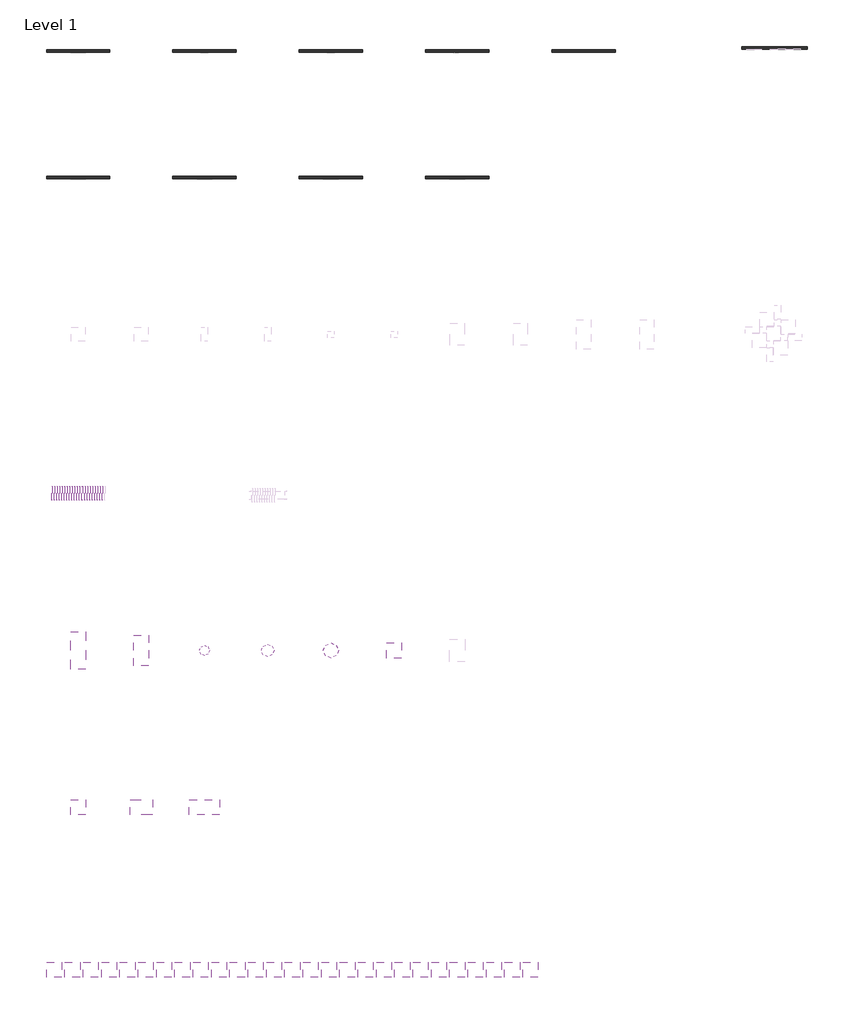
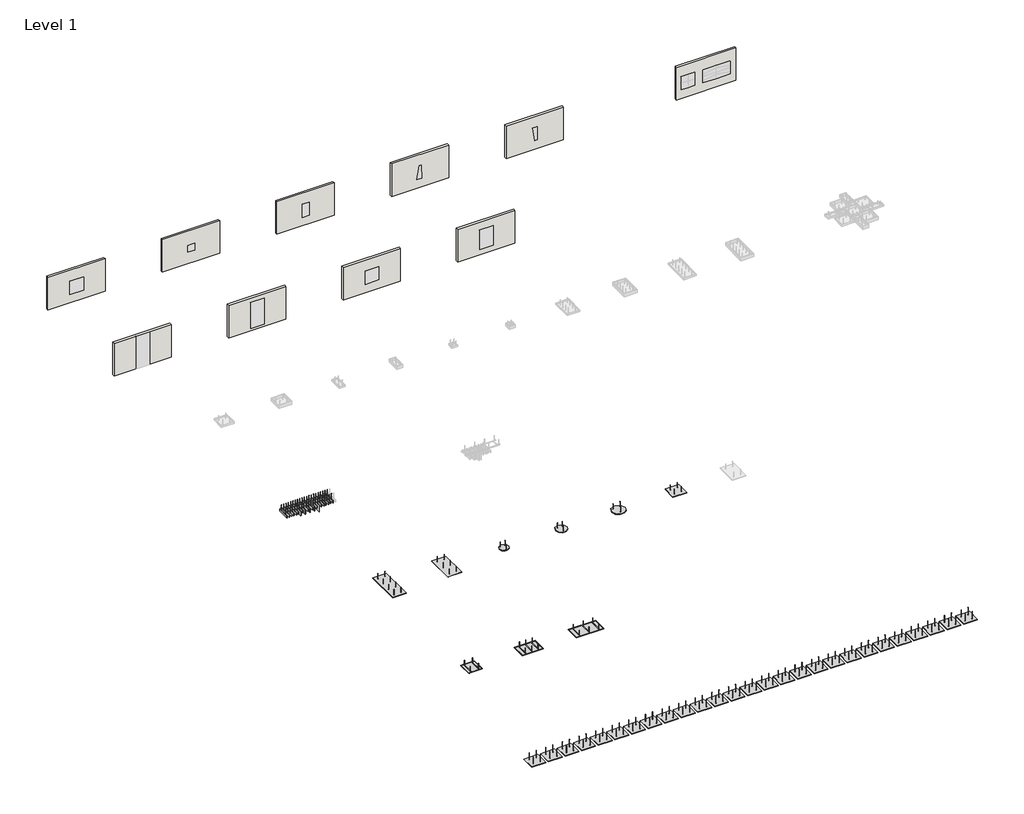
# One storey, part 1 of 2: 57 proxies, 10 walls.
"""IFC4 building model written with IfcOpenShell, lengths in millimetres."""

from ifc_helpers import new_model, si_unit, origin, origin_with_axes, place, context, project, spatial, polyline, outline, extrude, transform, mapped, element, save
from components import specialty_equipment_9a51aed6, specialty_equipment_522a419b, specialty_equipment_8dedf9e6, specialty_equipment_8f9aa0d5, specialty_equipment_cb26eacc, specialty_equipment_895da12a, specialty_equipment_03e5362a, specialty_equipment_ed930d67, specialty_equipment_7388ff7b, specialty_equipment_a36aa70e, specialty_equipment_c3a507bd, specialty_equipment_e558b074, owa_freestyle_baffle_freestyle_l_403e4e2e, owa_freestyle_baffle_freestyle_m_6130938e, owa_freestyle_baffle_freestyle_s_ccccea6c

model = new_model("IFC4")

# Units and contexts
model_context = context("Model", 3, world=origin())
ifc_project = project(units=[si_unit("LENGTHUNIT", "METRE", prefix="MILLI")], contexts=[model_context])

# Site, building, storey
site = spatial("IfcSite", under=ifc_project)
building = spatial("IfcBuilding", under=site)
storey = spatial("IfcBuildingStorey", under=building, Name="Level 1", Elevation=0.0)

# Proxies
placement = place(None, origin())
specialty_equipment_shape = specialty_equipment_9a51aed6(model_context)
element("IfcBuildingElementProxy", 1, Name="OWA Selecta : Selecta one", ObjectType="OWA Selecta : Selecta one", at=placement, inside=storey, context=model_context, shape_type="MappedRepresentation", body=[
    mapped(specialty_equipment_shape, transform((27612.2416021, -19326.8850129, 2850.0), x_axis=(0.0, -1.0, 0.0), y_axis=(-1.0, 0.0, 0.0), z_axis=(0.0, 0.0, -1.0))),
])
specialty_equipment_2_shape = specialty_equipment_522a419b(model_context)
element("IfcBuildingElementProxy", 2, Name="OWA Selecta : Selecta grande", ObjectType="OWA Selecta : Selecta grande", at=placement, inside=storey, context=model_context, shape_type="MappedRepresentation", body=[
    mapped(specialty_equipment_2_shape, transform((7612.2416021, -19326.8850129, 2850.0), x_axis=(0.0, -1.0, 0.0), y_axis=(-1.0, 0.0, 0.0), z_axis=(0.0, 0.0, -1.0))),
])
specialty_equipment_3_shape = specialty_equipment_8dedf9e6(model_context)
element("IfcBuildingElementProxy", 3, Name="OWA Selecta : Selecta loop 1000", ObjectType="OWA Selecta : Selecta loop 1000", at=placement, inside=storey, context=model_context, shape_type="MappedRepresentation", body=[
    mapped(specialty_equipment_3_shape, transform((17178.7416021, -18893.3850129, 2850.0), x_axis=(-1.0, 0.0, 0.0), y_axis=(0.0, 1.0, 0.0), z_axis=(0.0, 0.0, -1.0))),
])
specialty_equipment_4_shape = specialty_equipment_8f9aa0d5(model_context)
element("IfcBuildingElementProxy", 4, Name="OWA Selecta : Selecta loop 1200", ObjectType="OWA Selecta : Selecta loop 1200", at=placement, inside=storey, context=model_context, shape_type="MappedRepresentation", body=[
    mapped(specialty_equipment_4_shape, transform((22178.7416021, -18893.3850129, 2850.0), x_axis=(-1.0, 0.0, 0.0), y_axis=(0.0, 1.0, 0.0), z_axis=(0.0, 0.0, -1.0))),
])
specialty_equipment_5_shape = specialty_equipment_cb26eacc(model_context)
element("IfcBuildingElementProxy", 5, Name="OWA Selecta : Selecta loop 800", ObjectType="OWA Selecta : Selecta loop 800", at=placement, inside=storey, context=model_context, shape_type="MappedRepresentation", body=[
    mapped(specialty_equipment_5_shape, transform((12178.7416021, -18893.3850129, 2850.0), x_axis=(-1.0, 0.0, 0.0), y_axis=(0.0, 1.0, 0.0), z_axis=(0.0, 0.0, -1.0))),
])
specialty_equipment_6_shape = specialty_equipment_895da12a(model_context)
specialty_equipment_7_shape = specialty_equipment_03e5362a(model_context)
element("IfcBuildingElementProxy", 6, Name="OWA Selecta : Selecta grande XL", ObjectType="OWA Selecta : Selecta grande XL", at=placement, inside=storey, context=model_context, shape_type="MappedRepresentation", body=[
    mapped(specialty_equipment_6_shape, transform((2612.2416021, -19326.8850129, 2850.0), x_axis=(0.0, -1.0, 0.0), y_axis=(-1.0, 0.0, 0.0), z_axis=(0.0, 0.0, -1.0))),
    mapped(specialty_equipment_7_shape, transform((2612.2416021, -19326.8850129, 2850.0), x_axis=(0.0, -1.0, 0.0), y_axis=(-1.0, 0.0, 0.0), z_axis=(0.0, 0.0, -1.0))),
])
specialty_equipment_8_shape = specialty_equipment_ed930d67(model_context)
element("IfcBuildingElementProxy", 7, Name="OWA Selecta Metal : Selecta Metal one", ObjectType="OWA Selecta Metal : Selecta Metal one", at=placement, inside=storey, context=model_context, shape_type="MappedRepresentation", body=[
    mapped(specialty_equipment_8_shape, transform((2178.7416021, -31293.3850129, 2850.0), x_axis=(-1.0, 0.0, 0.0), y_axis=(0.0, 1.0, 0.0), z_axis=(0.0, 0.0, -1.0))),
])
specialty_equipment_9_shape = specialty_equipment_7388ff7b(model_context)
element("IfcBuildingElementProxy", 8, Name="OWA Selecta Metal : Selecta Metal plus", ObjectType="OWA Selecta Metal : Selecta Metal plus", at=placement, inside=storey, context=model_context, shape_type="MappedRepresentation", body=[
    mapped(specialty_equipment_9_shape, transform((7178.7416021, -31293.3850129, 2850.0), x_axis=(-1.0, 0.0, 0.0), y_axis=(0.0, 1.0, 0.0), z_axis=(0.0, 0.0, -1.0))),
])
specialty_equipment_10_shape = specialty_equipment_a36aa70e(model_context)
element("IfcBuildingElementProxy", 9, Name="OWA Selecta Metal : Selecta Metal grande", ObjectType="OWA Selecta Metal : Selecta Metal grande", at=placement, inside=storey, context=model_context, shape_type="MappedRepresentation", body=[
    mapped(specialty_equipment_10_shape, transform((12178.7416021, -31293.3850129, 2850.0), x_axis=(-1.0, 0.0, 0.0), y_axis=(0.0, 1.0, 0.0), z_axis=(0.0, 0.0, -1.0))),
])
specialty_equipment_11_shape = specialty_equipment_c3a507bd(model_context)
element("IfcBuildingElementProxy", 10, Name="OWA Selecta : Selecta one", ObjectType="OWA Selecta : Selecta one", at=placement, inside=storey, context=model_context, shape_type="MappedRepresentation", body=[
    mapped(specialty_equipment_11_shape, transform((278.7416021, -44150.6756234, 2850.0), x_axis=(-1.0, 0.0, 0.0), y_axis=(0.0, 1.0, 0.0), z_axis=(0.0, 0.0, -1.0))),
])
element("IfcBuildingElementProxy", 11, Name="OWA Selecta : Selecta one", ObjectType="OWA Selecta : Selecta one", at=placement, inside=storey, context=model_context, shape_type="MappedRepresentation", body=[
    mapped(specialty_equipment_11_shape, transform((1728.7416021, -44150.6756234, 2850.0), x_axis=(-1.0, 0.0, 0.0), y_axis=(0.0, 1.0, 0.0), z_axis=(0.0, 0.0, -1.0))),
])
specialty_equipment_12_shape = specialty_equipment_e558b074(model_context)
element("IfcBuildingElementProxy", 12, Name="OWA Selecta : Selecta one", ObjectType="OWA Selecta : Selecta one", at=placement, inside=storey, context=model_context, shape_type="MappedRepresentation", body=[
    mapped(specialty_equipment_12_shape, transform((4045.7416021, -44150.6756234, 2850.0), x_axis=(1.0, 0.0, 0.0), y_axis=(0.0, -1.0, 0.0), z_axis=(0.0, 0.0, -1.0))),
])
element("IfcBuildingElementProxy", 13, Name="OWA Selecta : Selecta one", ObjectType="OWA Selecta : Selecta one", at=placement, inside=storey, context=model_context, shape_type="MappedRepresentation", body=[
    mapped(specialty_equipment_12_shape, transform((6945.741602, -44150.6756234, 2850.0), x_axis=(1.0, 0.0, 0.0), y_axis=(0.0, -1.0, 0.0), z_axis=(0.0, 0.0, -1.0))),
])
element("IfcBuildingElementProxy", 14, Name="OWA Selecta : Selecta one", ObjectType="OWA Selecta : Selecta one", at=placement, inside=storey, context=model_context, shape_type="MappedRepresentation", body=[
    mapped(specialty_equipment_12_shape, transform((5495.7416021, -44150.6756234, 2850.0), x_axis=(1.0, 0.0, 0.0), y_axis=(0.0, -1.0, 0.0), z_axis=(0.0, 0.0, -1.0))),
])
element("IfcBuildingElementProxy", 15, Name="OWA Selecta : Selecta one", ObjectType="OWA Selecta : Selecta one", at=placement, inside=storey, context=model_context, shape_type="MappedRepresentation", body=[
    mapped(specialty_equipment_12_shape, transform((9845.741602, -44150.6756234, 2850.0), x_axis=(1.0, 0.0, 0.0), y_axis=(0.0, -1.0, 0.0), z_axis=(0.0, 0.0, -1.0))),
])
element("IfcBuildingElementProxy", 16, Name="OWA Selecta : Selecta one", ObjectType="OWA Selecta : Selecta one", at=placement, inside=storey, context=model_context, shape_type="MappedRepresentation", body=[
    mapped(specialty_equipment_12_shape, transform((8395.741602, -44150.6756234, 2850.0), x_axis=(1.0, 0.0, 0.0), y_axis=(0.0, -1.0, 0.0), z_axis=(0.0, 0.0, -1.0))),
])
element("IfcBuildingElementProxy", 17, Name="OWA Selecta : Selecta one", ObjectType="OWA Selecta : Selecta one", at=placement, inside=storey, context=model_context, shape_type="MappedRepresentation", body=[
    mapped(specialty_equipment_12_shape, transform((18545.741602, -44150.6756234, 2850.0), x_axis=(1.0, 0.0, 0.0), y_axis=(0.0, -1.0, 0.0), z_axis=(0.0, 0.0, -1.0))),
])
element("IfcBuildingElementProxy", 18, Name="OWA Selecta : Selecta one", ObjectType="OWA Selecta : Selecta one", at=placement, inside=storey, context=model_context, shape_type="MappedRepresentation", body=[
    mapped(specialty_equipment_12_shape, transform((17095.741602, -44150.6756234, 2850.0), x_axis=(1.0, 0.0, 0.0), y_axis=(0.0, -1.0, 0.0), z_axis=(0.0, 0.0, -1.0))),
])
element("IfcBuildingElementProxy", 19, Name="OWA Selecta : Selecta one", ObjectType="OWA Selecta : Selecta one", at=placement, inside=storey, context=model_context, shape_type="MappedRepresentation", body=[
    mapped(specialty_equipment_11_shape, transform((14778.741602, -44150.6756234, 2850.0), x_axis=(-1.0, 0.0, 0.0), y_axis=(0.0, 1.0, 0.0), z_axis=(0.0, 0.0, -1.0))),
])
element("IfcBuildingElementProxy", 20, Name="OWA Selecta : Selecta one", ObjectType="OWA Selecta : Selecta one", at=placement, inside=storey, context=model_context, shape_type="MappedRepresentation", body=[
    mapped(specialty_equipment_11_shape, transform((11878.741602, -44150.6756234, 2850.0), x_axis=(-1.0, 0.0, 0.0), y_axis=(0.0, 1.0, 0.0), z_axis=(0.0, 0.0, -1.0))),
])
element("IfcBuildingElementProxy", 21, Name="OWA Selecta : Selecta one", ObjectType="OWA Selecta : Selecta one", at=placement, inside=storey, context=model_context, shape_type="MappedRepresentation", body=[
    mapped(specialty_equipment_11_shape, transform((13328.741602, -44150.6756234, 2850.0), x_axis=(-1.0, 0.0, 0.0), y_axis=(0.0, 1.0, 0.0), z_axis=(0.0, 0.0, -1.0))),
])
element("IfcBuildingElementProxy", 22, Name="OWA Selecta : Selecta one", ObjectType="OWA Selecta : Selecta one", at=placement, inside=storey, context=model_context, shape_type="MappedRepresentation", body=[
    mapped(specialty_equipment_11_shape, transform((10428.741602, -44150.6756234, 2850.0), x_axis=(-1.0, 0.0, 0.0), y_axis=(0.0, 1.0, 0.0), z_axis=(0.0, 0.0, -1.0))),
])
element("IfcBuildingElementProxy", 23, Name="OWA Selecta : Selecta one", ObjectType="OWA Selecta : Selecta one", at=placement, inside=storey, context=model_context, shape_type="MappedRepresentation", body=[
    mapped(specialty_equipment_11_shape, transform((26378.7416019, -44150.6756234, 2850.0), x_axis=(-1.0, 0.0, 0.0), y_axis=(0.0, 1.0, 0.0), z_axis=(0.0, 0.0, -1.0))),
])
element("IfcBuildingElementProxy", 24, Name="OWA Selecta : Selecta one", ObjectType="OWA Selecta : Selecta one", at=placement, inside=storey, context=model_context, shape_type="MappedRepresentation", body=[
    mapped(specialty_equipment_11_shape, transform((19128.741602, -44150.6756234, 2850.0), x_axis=(-1.0, 0.0, 0.0), y_axis=(0.0, 1.0, 0.0), z_axis=(0.0, 0.0, -1.0))),
])
element("IfcBuildingElementProxy", 25, Name="OWA Selecta : Selecta one", ObjectType="OWA Selecta : Selecta one", at=placement, inside=storey, context=model_context, shape_type="MappedRepresentation", body=[
    mapped(specialty_equipment_12_shape, transform((21445.741602, -44150.6756234, 2850.0), x_axis=(1.0, 0.0, 0.0), y_axis=(0.0, -1.0, 0.0), z_axis=(0.0, 0.0, -1.0))),
])
element("IfcBuildingElementProxy", 26, Name="OWA Selecta : Selecta one", ObjectType="OWA Selecta : Selecta one", at=placement, inside=storey, context=model_context, shape_type="MappedRepresentation", body=[
    mapped(specialty_equipment_12_shape, transform((24345.7416019, -44150.6756234, 2850.0), x_axis=(1.0, 0.0, 0.0), y_axis=(0.0, -1.0, 0.0), z_axis=(0.0, 0.0, -1.0))),
])
element("IfcBuildingElementProxy", 27, Name="OWA Selecta : Selecta one", ObjectType="OWA Selecta : Selecta one", at=placement, inside=storey, context=model_context, shape_type="MappedRepresentation", body=[
    mapped(specialty_equipment_12_shape, transform((22895.741602, -44150.6756234, 2850.0), x_axis=(1.0, 0.0, 0.0), y_axis=(0.0, -1.0, 0.0), z_axis=(0.0, 0.0, -1.0))),
])
element("IfcBuildingElementProxy", 28, Name="OWA Selecta : Selecta one", ObjectType="OWA Selecta : Selecta one", at=placement, inside=storey, context=model_context, shape_type="MappedRepresentation", body=[
    mapped(specialty_equipment_12_shape, transform((25795.7416019, -44150.6756234, 2850.0), x_axis=(1.0, 0.0, 0.0), y_axis=(0.0, -1.0, 0.0), z_axis=(0.0, 0.0, -1.0))),
])
element("IfcBuildingElementProxy", 29, Name="OWA Selecta : Selecta one", ObjectType="OWA Selecta : Selecta one", at=placement, inside=storey, context=model_context, shape_type="MappedRepresentation", body=[
    mapped(specialty_equipment_11_shape, transform((27828.7416019, -44150.6756234, 2850.0), x_axis=(-1.0, 0.0, 0.0), y_axis=(0.0, 1.0, 0.0), z_axis=(0.0, 0.0, -1.0))),
])
element("IfcBuildingElementProxy", 30, Name="OWA Selecta : Selecta one", ObjectType="OWA Selecta : Selecta one", at=placement, inside=storey, context=model_context, shape_type="MappedRepresentation", body=[
    mapped(specialty_equipment_12_shape, transform((30145.7416019, -44150.6756234, 2850.0), x_axis=(1.0, 0.0, 0.0), y_axis=(0.0, -1.0, 0.0), z_axis=(0.0, 0.0, -1.0))),
])
element("IfcBuildingElementProxy", 31, Name="OWA Selecta : Selecta one", ObjectType="OWA Selecta : Selecta one", at=placement, inside=storey, context=model_context, shape_type="MappedRepresentation", body=[
    mapped(specialty_equipment_11_shape, transform((30728.7416019, -44150.6756234, 2850.0), x_axis=(-1.0, 0.0, 0.0), y_axis=(0.0, 1.0, 0.0), z_axis=(0.0, 0.0, -1.0))),
])
element("IfcBuildingElementProxy", 32, Name="OWA Selecta : Selecta one", ObjectType="OWA Selecta : Selecta one", at=placement, inside=storey, context=model_context, shape_type="MappedRepresentation", body=[
    mapped(specialty_equipment_12_shape, transform((33045.7416019, -44150.6756234, 2850.0), x_axis=(1.0, 0.0, 0.0), y_axis=(0.0, -1.0, 0.0), z_axis=(0.0, 0.0, -1.0))),
])
element("IfcBuildingElementProxy", 33, Name="OWA Selecta : Selecta one", ObjectType="OWA Selecta : Selecta one", at=placement, inside=storey, context=model_context, shape_type="MappedRepresentation", body=[
    mapped(specialty_equipment_12_shape, transform((34495.7416019, -44150.6756234, 2850.0), x_axis=(1.0, 0.0, 0.0), y_axis=(0.0, -1.0, 0.0), z_axis=(0.0, 0.0, -1.0))),
])
element("IfcBuildingElementProxy", 34, Name="OWA Selecta : Selecta one", ObjectType="OWA Selecta : Selecta one", at=placement, inside=storey, context=model_context, shape_type="MappedRepresentation", body=[
    mapped(specialty_equipment_11_shape, transform((35078.7416019, -44150.6756234, 2850.0), x_axis=(-1.0, 0.0, 0.0), y_axis=(0.0, 1.0, 0.0), z_axis=(0.0, 0.0, -1.0))),
])
element("IfcBuildingElementProxy", 35, Name="OWA Selecta : Selecta one", ObjectType="OWA Selecta : Selecta one", at=placement, inside=storey, context=model_context, shape_type="MappedRepresentation", body=[
    mapped(specialty_equipment_12_shape, transform((37395.7416019, -44150.6756234, 2850.0), x_axis=(1.0, 0.0, 0.0), y_axis=(0.0, -1.0, 0.0), z_axis=(0.0, 0.0, -1.0))),
])
element("IfcBuildingElementProxy", 36, Name="OWA Selecta : Selecta one", ObjectType="OWA Selecta : Selecta one", at=placement, inside=storey, context=model_context, shape_type="MappedRepresentation", body=[
    mapped(specialty_equipment_11_shape, transform((37978.7416019, -44150.6756234, 2850.0), x_axis=(-1.0, 0.0, 0.0), y_axis=(0.0, 1.0, 0.0), z_axis=(0.0, 0.0, -1.0))),
])
owa_freestyle_baffle_freestyle_l_shape = owa_freestyle_baffle_freestyle_l_403e4e2e(model_context)
element("IfcBuildingElementProxy", 37, Name="OWA FreeStyle Baffle : FreeStyle L", ObjectType="OWA FreeStyle Baffle : FreeStyle L", at=placement, inside=storey, context=model_context, shape_type="MappedRepresentation", body=[
    mapped(owa_freestyle_baffle_freestyle_l_shape, transform((3335.8983303, -6039.8850129, 2850.0), x_axis=(0.0, 1.0, 0.0), y_axis=(1.0, 0.0, 0.0), z_axis=(0.0, 0.0, -1.0))),
])
owa_freestyle_baffle_freestyle_m_shape = owa_freestyle_baffle_freestyle_m_6130938e(model_context)
element("IfcBuildingElementProxy", 38, Name="OWA FreeStyle Baffle : FreeStyle M", ObjectType="OWA FreeStyle Baffle : FreeStyle M", at=placement, inside=storey, context=model_context, shape_type="MappedRepresentation", body=[
    mapped(owa_freestyle_baffle_freestyle_m_shape, transform((1735.8983303, -6039.8850129, 2850.0), x_axis=(0.0, 1.0, 0.0), y_axis=(1.0, 0.0, 0.0), z_axis=(0.0, 0.0, -1.0))),
])
element("IfcBuildingElementProxy", 39, Name="OWA FreeStyle Baffle : FreeStyle M", ObjectType="OWA FreeStyle Baffle : FreeStyle M", at=placement, inside=storey, context=model_context, shape_type="MappedRepresentation", body=[
    mapped(owa_freestyle_baffle_freestyle_m_shape, transform((2135.8983303, -6039.8850129, 2850.0), x_axis=(0.0, 1.0, 0.0), y_axis=(1.0, 0.0, 0.0), z_axis=(0.0, 0.0, -1.0))),
])
element("IfcBuildingElementProxy", 40, Name="OWA FreeStyle Baffle : FreeStyle M", ObjectType="OWA FreeStyle Baffle : FreeStyle M", at=placement, inside=storey, context=model_context, shape_type="MappedRepresentation", body=[
    mapped(owa_freestyle_baffle_freestyle_m_shape, transform((2535.8983303, -6039.8850129, 2850.0), x_axis=(0.0, 1.0, 0.0), y_axis=(1.0, 0.0, 0.0), z_axis=(0.0, 0.0, -1.0))),
])
element("IfcBuildingElementProxy", 41, Name="OWA FreeStyle Baffle : FreeStyle M", ObjectType="OWA FreeStyle Baffle : FreeStyle M", at=placement, inside=storey, context=model_context, shape_type="MappedRepresentation", body=[
    mapped(owa_freestyle_baffle_freestyle_m_shape, transform((2935.8983303, -6039.8850129, 2850.0), x_axis=(0.0, 1.0, 0.0), y_axis=(1.0, 0.0, 0.0), z_axis=(0.0, 0.0, -1.0))),
])
owa_freestyle_baffle_freestyle_s_shape = owa_freestyle_baffle_freestyle_s_ccccea6c(model_context)
element("IfcBuildingElementProxy", 42, Name="OWA FreeStyle Baffle : FreeStyle S", ObjectType="OWA FreeStyle Baffle : FreeStyle S", at=placement, inside=storey, context=model_context, shape_type="MappedRepresentation", body=[
    mapped(owa_freestyle_baffle_freestyle_s_shape, transform((535.8983303, -6039.8850129, 2850.0), x_axis=(0.0, 1.0, 0.0), y_axis=(1.0, 0.0, 0.0), z_axis=(0.0, 0.0, -1.0))),
])
element("IfcBuildingElementProxy", 43, Name="OWA FreeStyle Baffle : FreeStyle S", ObjectType="OWA FreeStyle Baffle : FreeStyle S", at=placement, inside=storey, context=model_context, shape_type="MappedRepresentation", body=[
    mapped(owa_freestyle_baffle_freestyle_s_shape, transform((735.8983303, -6039.8850129, 2850.0), x_axis=(0.0, 1.0, 0.0), y_axis=(1.0, 0.0, 0.0), z_axis=(0.0, 0.0, -1.0))),
])
element("IfcBuildingElementProxy", 44, Name="OWA FreeStyle Baffle : FreeStyle S", ObjectType="OWA FreeStyle Baffle : FreeStyle S", at=placement, inside=storey, context=model_context, shape_type="MappedRepresentation", body=[
    mapped(owa_freestyle_baffle_freestyle_s_shape, transform((935.8983303, -6039.8850129, 2850.0), x_axis=(0.0, 1.0, 0.0), y_axis=(1.0, 0.0, 0.0), z_axis=(0.0, 0.0, -1.0))),
])
element("IfcBuildingElementProxy", 45, Name="OWA FreeStyle Baffle : FreeStyle S", ObjectType="OWA FreeStyle Baffle : FreeStyle S", at=placement, inside=storey, context=model_context, shape_type="MappedRepresentation", body=[
    mapped(owa_freestyle_baffle_freestyle_s_shape, transform((1135.8983303, -6039.8850129, 2850.0), x_axis=(0.0, 1.0, 0.0), y_axis=(1.0, 0.0, 0.0), z_axis=(0.0, 0.0, -1.0))),
])
element("IfcBuildingElementProxy", 46, Name="OWA FreeStyle Baffle : FreeStyle S", ObjectType="OWA FreeStyle Baffle : FreeStyle S", at=placement, inside=storey, context=model_context, shape_type="MappedRepresentation", body=[
    mapped(owa_freestyle_baffle_freestyle_s_shape, transform((1335.8983303, -6039.8850129, 2850.0), x_axis=(0.0, 1.0, 0.0), y_axis=(1.0, 0.0, 0.0), z_axis=(0.0, 0.0, -1.0))),
])
element("IfcBuildingElementProxy", 47, Name="OWA FreeStyle Baffle : FreeStyle S", ObjectType="OWA FreeStyle Baffle : FreeStyle S", at=placement, inside=storey, context=model_context, shape_type="MappedRepresentation", body=[
    mapped(owa_freestyle_baffle_freestyle_s_shape, transform((1535.8983303, -6039.8850129, 2850.0), x_axis=(0.0, 1.0, 0.0), y_axis=(1.0, 0.0, 0.0), z_axis=(0.0, 0.0, -1.0))),
])
element("IfcBuildingElementProxy", 48, Name="OWA FreeStyle Baffle : FreeStyle S", ObjectType="OWA FreeStyle Baffle : FreeStyle S", at=placement, inside=storey, context=model_context, shape_type="MappedRepresentation", body=[
    mapped(owa_freestyle_baffle_freestyle_s_shape, transform((1935.8983303, -6039.8850129, 2850.0), x_axis=(0.0, 1.0, 0.0), y_axis=(1.0, 0.0, 0.0), z_axis=(0.0, 0.0, -1.0))),
])
element("IfcBuildingElementProxy", 49, Name="OWA FreeStyle Baffle : FreeStyle S", ObjectType="OWA FreeStyle Baffle : FreeStyle S", at=placement, inside=storey, context=model_context, shape_type="MappedRepresentation", body=[
    mapped(owa_freestyle_baffle_freestyle_s_shape, transform((2335.8983303, -6039.8850129, 2850.0), x_axis=(0.0, 1.0, 0.0), y_axis=(1.0, 0.0, 0.0), z_axis=(0.0, 0.0, -1.0))),
])
element("IfcBuildingElementProxy", 50, Name="OWA FreeStyle Baffle : FreeStyle S", ObjectType="OWA FreeStyle Baffle : FreeStyle S", at=placement, inside=storey, context=model_context, shape_type="MappedRepresentation", body=[
    mapped(owa_freestyle_baffle_freestyle_s_shape, transform((2735.8983303, -6039.8850129, 2850.0), x_axis=(0.0, 1.0, 0.0), y_axis=(1.0, 0.0, 0.0), z_axis=(0.0, 0.0, -1.0))),
])
element("IfcBuildingElementProxy", 51, Name="OWA FreeStyle Baffle : FreeStyle S", ObjectType="OWA FreeStyle Baffle : FreeStyle S", at=placement, inside=storey, context=model_context, shape_type="MappedRepresentation", body=[
    mapped(owa_freestyle_baffle_freestyle_s_shape, transform((3135.8983303, -6039.8850129, 2850.0), x_axis=(0.0, 1.0, 0.0), y_axis=(1.0, 0.0, 0.0), z_axis=(0.0, 0.0, -1.0))),
])
element("IfcBuildingElementProxy", 52, Name="OWA FreeStyle Baffle : FreeStyle S", ObjectType="OWA FreeStyle Baffle : FreeStyle S", at=placement, inside=storey, context=model_context, shape_type="MappedRepresentation", body=[
    mapped(owa_freestyle_baffle_freestyle_s_shape, transform((3535.8983303, -6039.8850129, 2850.0), x_axis=(0.0, 1.0, 0.0), y_axis=(1.0, 0.0, 0.0), z_axis=(0.0, 0.0, -1.0))),
])
element("IfcBuildingElementProxy", 53, Name="OWA FreeStyle Baffle : FreeStyle S", ObjectType="OWA FreeStyle Baffle : FreeStyle S", at=placement, inside=storey, context=model_context, shape_type="MappedRepresentation", body=[
    mapped(owa_freestyle_baffle_freestyle_s_shape, transform((3735.8983303, -6039.8850129, 2850.0), x_axis=(0.0, 1.0, 0.0), y_axis=(1.0, 0.0, 0.0), z_axis=(0.0, 0.0, -1.0))),
])
element("IfcBuildingElementProxy", 54, Name="OWA FreeStyle Baffle : FreeStyle S", ObjectType="OWA FreeStyle Baffle : FreeStyle S", at=placement, inside=storey, context=model_context, shape_type="MappedRepresentation", body=[
    mapped(owa_freestyle_baffle_freestyle_s_shape, transform((3935.8983303, -6039.8850129, 2850.0), x_axis=(0.0, 1.0, 0.0), y_axis=(1.0, 0.0, 0.0), z_axis=(0.0, 0.0, -1.0))),
])
element("IfcBuildingElementProxy", 55, Name="OWA FreeStyle Baffle : FreeStyle S", ObjectType="OWA FreeStyle Baffle : FreeStyle S", at=placement, inside=storey, context=model_context, shape_type="MappedRepresentation", body=[
    mapped(owa_freestyle_baffle_freestyle_s_shape, transform((4135.8983303, -6039.8850129, 2850.0), x_axis=(0.0, 1.0, 0.0), y_axis=(1.0, 0.0, 0.0), z_axis=(0.0, 0.0, -1.0))),
])
element("IfcBuildingElementProxy", 56, Name="OWA FreeStyle Baffle : FreeStyle S", ObjectType="OWA FreeStyle Baffle : FreeStyle S", at=placement, inside=storey, context=model_context, shape_type="MappedRepresentation", body=[
    mapped(owa_freestyle_baffle_freestyle_s_shape, transform((4335.8983303, -6039.8850129, 2850.0), x_axis=(0.0, 1.0, 0.0), y_axis=(1.0, 0.0, 0.0), z_axis=(0.0, 0.0, -1.0))),
])
element("IfcBuildingElementProxy", 57, Name="OWA FreeStyle Baffle : FreeStyle S", ObjectType="OWA FreeStyle Baffle : FreeStyle S", at=placement, inside=storey, context=model_context, shape_type="MappedRepresentation", body=[
    mapped(owa_freestyle_baffle_freestyle_s_shape, transform((4535.8983303, -6039.8850129, 2850.0), x_axis=(0.0, 1.0, 0.0), y_axis=(1.0, 0.0, 0.0), z_axis=(0.0, 0.0, -1.0))),
])

# Walls
element("IfcWall", 58, ObjectType="Generic - 200mm", at=placement, inside=storey, context=model_context, shape_type="SweptSolid", body=[
    extrude(outline(polyline([(60312.2416021, 28666.6149871), (55112.2416021, 28666.6149871), (55112.2416021, 28866.6149871), (60312.2416021, 28866.6149871), (60312.2416021, 28666.6149871)])), origin_with_axes(), (0.0, 0.0, 1.0), 3000.0),
])
element("IfcWall", 59, ObjectType="Wand 1", at=placement, inside=storey, context=model_context, shape_type="SweptSolid", body=[
    extrude(outline(polyline([(5112.2416021, 28426.6149871), (112.2416021, 28426.6149871), (112.2416021, 28626.6149871), (5112.2416021, 28626.6149871), (5112.2416021, 28426.6149871)])), origin_with_axes(), (0.0, 0.0, 1.0), 3000.0),
])
element("IfcWall", 60, ObjectType="Wand 1", at=placement, inside=storey, context=model_context, shape_type="SweptSolid", body=[
    extrude(outline(polyline([(15112.2416021, 28426.6149871), (10112.2416021, 28426.6149871), (10112.2416021, 28626.6149871), (15112.2416021, 28626.6149871), (15112.2416021, 28426.6149871)])), origin_with_axes(), (0.0, 0.0, 1.0), 3000.0),
])
element("IfcWall", 61, ObjectType="Wand 1", at=placement, inside=storey, context=model_context, shape_type="SweptSolid", body=[
    extrude(outline(polyline([(25112.2416021, 28426.6149871), (20112.2416021, 28426.6149871), (20112.2416021, 28626.6149871), (25112.2416021, 28626.6149871), (25112.2416021, 28426.6149871)])), origin_with_axes(), (0.0, 0.0, 1.0), 3000.0),
])
element("IfcWall", 62, ObjectType="Wand 1", at=placement, inside=storey, context=model_context, shape_type="SweptSolid", body=[
    extrude(outline(polyline([(35112.2416021, 28426.6149871), (30112.2416021, 28426.6149871), (30112.2416021, 28626.6149871), (35112.2416021, 28626.6149871), (35112.2416021, 28426.6149871)])), origin_with_axes(), (0.0, 0.0, 1.0), 3000.0),
])
element("IfcWall", 63, ObjectType="Wand 1", at=placement, inside=storey, context=model_context, shape_type="SweptSolid", body=[
    extrude(outline(polyline([(45112.2416021, 28426.6149871), (40112.2416021, 28426.6149871), (40112.2416021, 28626.6149871), (45112.2416021, 28626.6149871), (45112.2416021, 28426.6149871)])), origin_with_axes(), (0.0, 0.0, 1.0), 3000.0),
])
element("IfcWall", 64, ObjectType="Wand 1", at=placement, inside=storey, context=model_context, shape_type="SweptSolid", body=[
    extrude(outline(polyline([(5112.2416021, 18426.6149871), (112.2416021, 18426.6149871), (112.2416021, 18626.6149871), (5112.2416021, 18626.6149871), (5112.2416021, 18426.6149871)])), origin_with_axes(), (0.0, 0.0, 1.0), 3000.0),
])
element("IfcWall", 65, ObjectType="Wand 1", at=placement, inside=storey, context=model_context, shape_type="SweptSolid", body=[
    extrude(outline(polyline([(15112.2416021, 18426.6149871), (10112.2416021, 18426.6149871), (10112.2416021, 18626.6149871), (15112.2416021, 18626.6149871), (15112.2416021, 18426.6149871)])), origin_with_axes(), (0.0, 0.0, 1.0), 3000.0),
])
element("IfcWall", 66, ObjectType="Wand 1", at=placement, inside=storey, context=model_context, shape_type="SweptSolid", body=[
    extrude(outline(polyline([(25112.2416021, 18426.6149871), (20112.2416021, 18426.6149871), (20112.2416021, 18626.6149871), (25112.2416021, 18626.6149871), (25112.2416021, 18426.6149871)])), origin_with_axes(), (0.0, 0.0, 1.0), 3000.0),
])
element("IfcWall", 67, ObjectType="Wand 1", at=placement, inside=storey, context=model_context, shape_type="SweptSolid", body=[
    extrude(outline(polyline([(35112.2416021, 18426.6149871), (30112.2416021, 18426.6149871), (30112.2416021, 18626.6149871), (35112.2416021, 18626.6149871), (35112.2416021, 18426.6149871)])), origin_with_axes(), (0.0, 0.0, 1.0), 3000.0),
])

save(model, "model.ifc")
